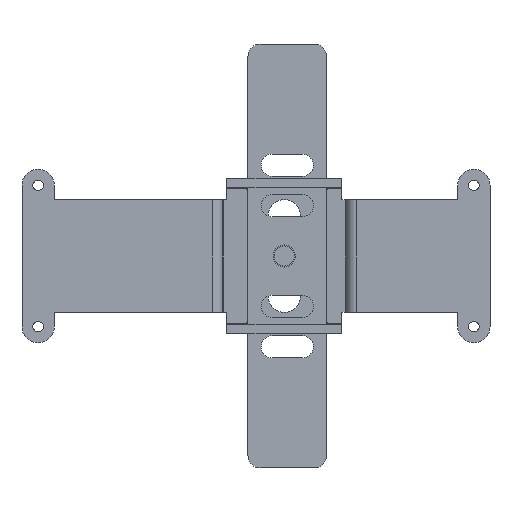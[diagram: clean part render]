
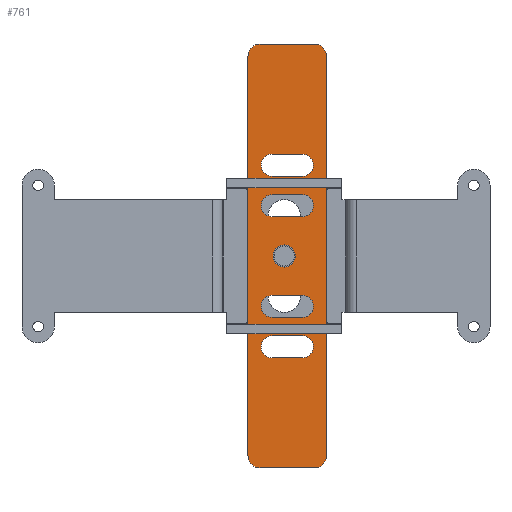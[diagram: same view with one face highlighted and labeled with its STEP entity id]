
A CAD part, front view. The second image highlights one B-rep face of the part: STEP entity #761.
In plain terms, the highlighted planar face has unit normal (0, -1, 0) as drawn and (0, 0, -1) by its records, which use the part's own axes.
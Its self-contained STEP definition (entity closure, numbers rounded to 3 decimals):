
#581=FACE_BOUND('',#1085,.T.);
#582=FACE_BOUND('',#1086,.T.);
#583=FACE_BOUND('',#1087,.T.);
#584=FACE_BOUND('',#1088,.T.);
#585=FACE_BOUND('',#1089,.T.);
#586=FACE_BOUND('',#1090,.T.);
#643=PLANE('',#3252);
#761=ADVANCED_FACE('',(#581,#582,#583,#584,#585,#586),#643,.F.);
#1085=EDGE_LOOP('',(#1809,#1810,#1811,#1812,#1813,#1814,#1815,#1816));
#1086=EDGE_LOOP('',(#1817,#1818));
#1087=EDGE_LOOP('',(#1819,#1820,#1821,#1822));
#1088=EDGE_LOOP('',(#1823,#1824,#1825,#1826));
#1089=EDGE_LOOP('',(#1827,#1828,#1829,#1830));
#1090=EDGE_LOOP('',(#1831,#1832,#1833,#1834));
#1217=CIRCLE('',#3238,3.);
#1218=CIRCLE('',#3239,3.);
#1219=CIRCLE('',#3240,3.);
#1220=CIRCLE('',#3241,3.);
#1221=CIRCLE('',#3242,2.75);
#1222=CIRCLE('',#3243,2.75);
#1223=CIRCLE('',#3244,2.75);
#1224=CIRCLE('',#3245,2.75);
#1225=CIRCLE('',#3246,2.75);
#1226=CIRCLE('',#3247,2.75);
#1227=CIRCLE('',#3248,2.75);
#1228=CIRCLE('',#3249,2.75);
#1229=CIRCLE('',#3250,2.75);
#1230=CIRCLE('',#3251,2.75);
#1809=ORIENTED_EDGE('',*,*,#2485,.F.);
#1810=ORIENTED_EDGE('',*,*,#2486,.T.);
#1811=ORIENTED_EDGE('',*,*,#2487,.F.);
#1812=ORIENTED_EDGE('',*,*,#2488,.T.);
#1813=ORIENTED_EDGE('',*,*,#2489,.F.);
#1814=ORIENTED_EDGE('',*,*,#2490,.T.);
#1815=ORIENTED_EDGE('',*,*,#2491,.F.);
#1816=ORIENTED_EDGE('',*,*,#2492,.T.);
#1817=ORIENTED_EDGE('',*,*,#2493,.F.);
#1818=ORIENTED_EDGE('',*,*,#2494,.F.);
#1819=ORIENTED_EDGE('',*,*,#2495,.F.);
#1820=ORIENTED_EDGE('',*,*,#2496,.F.);
#1821=ORIENTED_EDGE('',*,*,#2497,.F.);
#1822=ORIENTED_EDGE('',*,*,#2498,.F.);
#1823=ORIENTED_EDGE('',*,*,#2499,.F.);
#1824=ORIENTED_EDGE('',*,*,#2500,.F.);
#1825=ORIENTED_EDGE('',*,*,#2501,.F.);
#1826=ORIENTED_EDGE('',*,*,#2502,.F.);
#1827=ORIENTED_EDGE('',*,*,#2503,.F.);
#1828=ORIENTED_EDGE('',*,*,#2504,.F.);
#1829=ORIENTED_EDGE('',*,*,#2505,.F.);
#1830=ORIENTED_EDGE('',*,*,#2506,.F.);
#1831=ORIENTED_EDGE('',*,*,#2507,.F.);
#1832=ORIENTED_EDGE('',*,*,#2508,.F.);
#1833=ORIENTED_EDGE('',*,*,#2509,.F.);
#1834=ORIENTED_EDGE('',*,*,#2510,.F.);
#2151=VERTEX_POINT('',#4628);
#2152=VERTEX_POINT('',#4629);
#2153=VERTEX_POINT('',#4631);
#2154=VERTEX_POINT('',#4633);
#2155=VERTEX_POINT('',#4635);
#2156=VERTEX_POINT('',#4637);
#2157=VERTEX_POINT('',#4639);
#2158=VERTEX_POINT('',#4641);
#2159=VERTEX_POINT('',#4644);
#2160=VERTEX_POINT('',#4645);
#2161=VERTEX_POINT('',#4648);
#2162=VERTEX_POINT('',#4649);
#2163=VERTEX_POINT('',#4651);
#2164=VERTEX_POINT('',#4653);
#2165=VERTEX_POINT('',#4656);
#2166=VERTEX_POINT('',#4657);
#2167=VERTEX_POINT('',#4659);
#2168=VERTEX_POINT('',#4661);
#2169=VERTEX_POINT('',#4664);
#2170=VERTEX_POINT('',#4665);
#2171=VERTEX_POINT('',#4667);
#2172=VERTEX_POINT('',#4669);
#2173=VERTEX_POINT('',#4672);
#2174=VERTEX_POINT('',#4673);
#2175=VERTEX_POINT('',#4675);
#2176=VERTEX_POINT('',#4677);
#2485=EDGE_CURVE('',#2151,#2152,#2751,.T.);
#2486=EDGE_CURVE('',#2151,#2153,#1217,.T.);
#2487=EDGE_CURVE('',#2154,#2153,#2752,.T.);
#2488=EDGE_CURVE('',#2154,#2155,#1218,.T.);
#2489=EDGE_CURVE('',#2156,#2155,#2753,.T.);
#2490=EDGE_CURVE('',#2156,#2157,#1219,.T.);
#2491=EDGE_CURVE('',#2158,#2157,#2754,.T.);
#2492=EDGE_CURVE('',#2158,#2152,#1220,.T.);
#2493=EDGE_CURVE('',#2159,#2160,#1221,.T.);
#2494=EDGE_CURVE('',#2160,#2159,#1222,.T.);
#2495=EDGE_CURVE('',#2161,#2162,#1223,.T.);
#2496=EDGE_CURVE('',#2163,#2161,#2755,.T.);
#2497=EDGE_CURVE('',#2164,#2163,#1224,.T.);
#2498=EDGE_CURVE('',#2162,#2164,#2756,.T.);
#2499=EDGE_CURVE('',#2165,#2166,#1225,.T.);
#2500=EDGE_CURVE('',#2167,#2165,#2757,.T.);
#2501=EDGE_CURVE('',#2168,#2167,#1226,.T.);
#2502=EDGE_CURVE('',#2166,#2168,#2758,.T.);
#2503=EDGE_CURVE('',#2169,#2170,#1227,.T.);
#2504=EDGE_CURVE('',#2171,#2169,#2759,.T.);
#2505=EDGE_CURVE('',#2172,#2171,#1228,.T.);
#2506=EDGE_CURVE('',#2170,#2172,#2760,.T.);
#2507=EDGE_CURVE('',#2173,#2174,#2761,.T.);
#2508=EDGE_CURVE('',#2175,#2173,#1229,.T.);
#2509=EDGE_CURVE('',#2176,#2175,#2762,.T.);
#2510=EDGE_CURVE('',#2174,#2176,#1230,.T.);
#2751=LINE('',#4627,#2989);
#2752=LINE('',#4632,#2990);
#2753=LINE('',#4636,#2991);
#2754=LINE('',#4640,#2992);
#2755=LINE('',#4650,#2993);
#2756=LINE('',#4654,#2994);
#2757=LINE('',#4658,#2995);
#2758=LINE('',#4662,#2996);
#2759=LINE('',#4666,#2997);
#2760=LINE('',#4670,#2998);
#2761=LINE('',#4671,#2999);
#2762=LINE('',#4676,#3000);
#2989=VECTOR('',#3884,1.);
#2990=VECTOR('',#3887,1.);
#2991=VECTOR('',#3890,1.);
#2992=VECTOR('',#3893,1.);
#2993=VECTOR('',#3902,1.);
#2994=VECTOR('',#3905,1.);
#2995=VECTOR('',#3908,1.);
#2996=VECTOR('',#3911,1.);
#2997=VECTOR('',#3914,1.);
#2998=VECTOR('',#3917,1.);
#2999=VECTOR('',#3918,1.);
#3000=VECTOR('',#3921,1.);
#3238=AXIS2_PLACEMENT_3D('',#4630,#3885,#3886);
#3239=AXIS2_PLACEMENT_3D('',#4634,#3888,#3889);
#3240=AXIS2_PLACEMENT_3D('',#4638,#3891,#3892);
#3241=AXIS2_PLACEMENT_3D('',#4642,#3894,#3895);
#3242=AXIS2_PLACEMENT_3D('',#4643,#3896,#3897);
#3243=AXIS2_PLACEMENT_3D('',#4646,#3898,#3899);
#3244=AXIS2_PLACEMENT_3D('',#4647,#3900,#3901);
#3245=AXIS2_PLACEMENT_3D('',#4652,#3903,#3904);
#3246=AXIS2_PLACEMENT_3D('',#4655,#3906,#3907);
#3247=AXIS2_PLACEMENT_3D('',#4660,#3909,#3910);
#3248=AXIS2_PLACEMENT_3D('',#4663,#3912,#3913);
#3249=AXIS2_PLACEMENT_3D('',#4668,#3915,#3916);
#3250=AXIS2_PLACEMENT_3D('',#4674,#3919,#3920);
#3251=AXIS2_PLACEMENT_3D('',#4678,#3922,#3923);
#3252=AXIS2_PLACEMENT_3D('',#4679,#3924,#3925);
#3884=DIRECTION('',(1.,0.,0.));
#3885=DIRECTION('',(0.,0.,-1.));
#3886=DIRECTION('',(0.,-1.,0.));
#3887=DIRECTION('',(0.,-1.,0.));
#3888=DIRECTION('',(0.,0.,-1.));
#3889=DIRECTION('',(-1.,0.,0.));
#3890=DIRECTION('',(-1.,0.,0.));
#3891=DIRECTION('',(0.,0.,-1.));
#3892=DIRECTION('',(0.,1.,0.));
#3893=DIRECTION('',(0.,1.,0.));
#3894=DIRECTION('',(0.,0.,-1.));
#3895=DIRECTION('',(1.,0.,0.));
#3896=DIRECTION('',(0.,0.,-1.));
#3897=DIRECTION('',(-1.,0.,0.));
#3898=DIRECTION('',(0.,0.,-1.));
#3899=DIRECTION('',(1.,0.,0.));
#3900=DIRECTION('',(0.,0.,-1.));
#3901=DIRECTION('',(0.,-1.,0.));
#3902=DIRECTION('',(-1.,0.,0.));
#3903=DIRECTION('',(0.,0.,-1.));
#3904=DIRECTION('',(0.,1.,0.));
#3905=DIRECTION('',(1.,0.,0.));
#3906=DIRECTION('',(0.,0.,-1.));
#3907=DIRECTION('',(0.,-1.,0.));
#3908=DIRECTION('',(-1.,0.,0.));
#3909=DIRECTION('',(0.,0.,-1.));
#3910=DIRECTION('',(0.,1.,0.));
#3911=DIRECTION('',(1.,0.,0.));
#3912=DIRECTION('',(0.,0.,-1.));
#3913=DIRECTION('',(0.,-1.,0.));
#3914=DIRECTION('',(-1.,0.,0.));
#3915=DIRECTION('',(0.,0.,-1.));
#3916=DIRECTION('',(0.,1.,0.));
#3917=DIRECTION('',(1.,0.,0.));
#3918=DIRECTION('',(-1.,0.,0.));
#3919=DIRECTION('',(0.,0.,-1.));
#3920=DIRECTION('',(0.,1.,0.));
#3921=DIRECTION('',(1.,0.,0.));
#3922=DIRECTION('',(0.,0.,-1.));
#3923=DIRECTION('',(0.,-1.,0.));
#3924=DIRECTION('',(0.,0.,1.));
#3925=DIRECTION('',(-1.,0.,0.));
#4627=CARTESIAN_POINT('',(3.,0.,0.));
#4628=CARTESIAN_POINT('',(1.5,0.,0.));
#4629=CARTESIAN_POINT('',(15.,0.,0.));
#4630=CARTESIAN_POINT('',(1.5,3.,0.));
#4631=CARTESIAN_POINT('',(-1.5,3.,0.));
#4632=CARTESIAN_POINT('',(-1.5,102.,0.));
#4633=CARTESIAN_POINT('',(-1.5,102.,0.));
#4634=CARTESIAN_POINT('',(1.5,102.,0.));
#4635=CARTESIAN_POINT('',(1.5,105.,0.));
#4636=CARTESIAN_POINT('',(15.,105.,0.));
#4637=CARTESIAN_POINT('',(15.,105.,0.));
#4638=CARTESIAN_POINT('',(15.,102.,0.));
#4639=CARTESIAN_POINT('',(18.,102.,0.));
#4640=CARTESIAN_POINT('',(18.,3.,0.));
#4641=CARTESIAN_POINT('',(18.,3.,0.));
#4642=CARTESIAN_POINT('',(15.,3.,0.));
#4643=CARTESIAN_POINT('',(9.,52.5,0.));
#4644=CARTESIAN_POINT('',(6.25,52.5,0.));
#4645=CARTESIAN_POINT('',(11.75,52.5,0.));
#4646=CARTESIAN_POINT('',(9.,52.5,0.));
#4647=CARTESIAN_POINT('',(4.5,65.,0.));
#4648=CARTESIAN_POINT('',(4.5,62.25,0.));
#4649=CARTESIAN_POINT('',(4.5,67.75,0.));
#4650=CARTESIAN_POINT('',(12.,62.25,0.));
#4651=CARTESIAN_POINT('',(12.,62.25,0.));
#4652=CARTESIAN_POINT('',(12.,65.,0.));
#4653=CARTESIAN_POINT('',(12.,67.75,0.));
#4654=CARTESIAN_POINT('',(6.,67.75,0.));
#4655=CARTESIAN_POINT('',(4.5,40.,0.));
#4656=CARTESIAN_POINT('',(4.5,37.25,0.));
#4657=CARTESIAN_POINT('',(4.5,42.75,0.));
#4658=CARTESIAN_POINT('',(12.,37.25,0.));
#4659=CARTESIAN_POINT('',(12.,37.25,0.));
#4660=CARTESIAN_POINT('',(12.,40.,0.));
#4661=CARTESIAN_POINT('',(12.,42.75,0.));
#4662=CARTESIAN_POINT('',(6.,42.75,0.));
#4663=CARTESIAN_POINT('',(4.5,30.,0.));
#4664=CARTESIAN_POINT('',(4.5,27.25,0.));
#4665=CARTESIAN_POINT('',(4.5,32.75,0.));
#4666=CARTESIAN_POINT('',(12.,27.25,0.));
#4667=CARTESIAN_POINT('',(12.,27.25,0.));
#4668=CARTESIAN_POINT('',(12.,30.,0.));
#4669=CARTESIAN_POINT('',(12.,32.75,0.));
#4670=CARTESIAN_POINT('',(6.,32.75,0.));
#4671=CARTESIAN_POINT('',(12.,72.25,0.));
#4672=CARTESIAN_POINT('',(12.,72.25,0.));
#4673=CARTESIAN_POINT('',(4.5,72.25,0.));
#4674=CARTESIAN_POINT('',(12.,75.,0.));
#4675=CARTESIAN_POINT('',(12.,77.75,0.));
#4676=CARTESIAN_POINT('',(6.,77.75,0.));
#4677=CARTESIAN_POINT('',(4.5,77.75,0.));
#4678=CARTESIAN_POINT('',(4.5,75.,0.));
#4679=CARTESIAN_POINT('',(0.,0.,0.));
